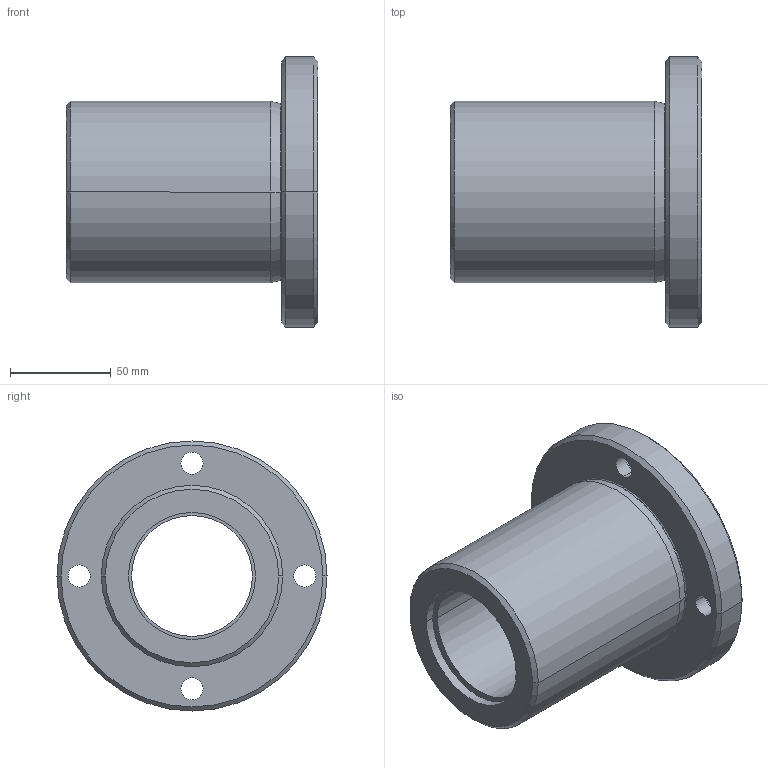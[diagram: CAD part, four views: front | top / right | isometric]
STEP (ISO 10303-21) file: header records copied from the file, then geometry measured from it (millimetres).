
FILE_DESCRIPTION (( 'STEP AP214' ), '1' );
FILE_NAME ('2.7066 Lineaarilaakeri LMEF60UU.STEP', '2024-06-17T11:37:42', ( '' ), ( '' ), 'SwSTEP 2.0', 'SolidWorks 2024', '' );
FILE_SCHEMA (( 'AUTOMOTIVE_DESIGN' ));
Length unit declared in the file: millimetre
Products named in the file (1): 2.7066 Lineaarilaakeri LMEF60UU
Bounding box: 125 x 134 x 134 mm (x, y, z)
Volume: 560737.2 mm3; surface area: 88634.6 mm2
Topology: 1 solids, 1 shells, 53 faces, 116 edges, 74 vertices
Faces by surface type: cylinder 30, plane 11, cone 8, torus 4
Entity records: 1531 total; most frequent: DIRECTION 302, CARTESIAN_POINT 244, ORIENTED_EDGE 232, AXIS2_PLACEMENT_3D 132, EDGE_CURVE 116, CIRCLE 78, VERTEX_POINT 74, EDGE_LOOP 72
